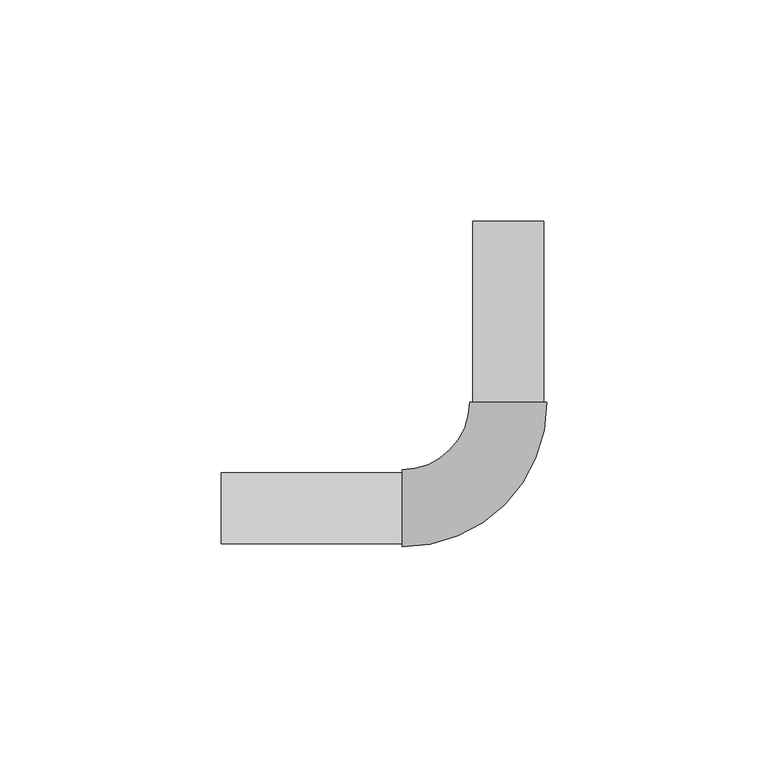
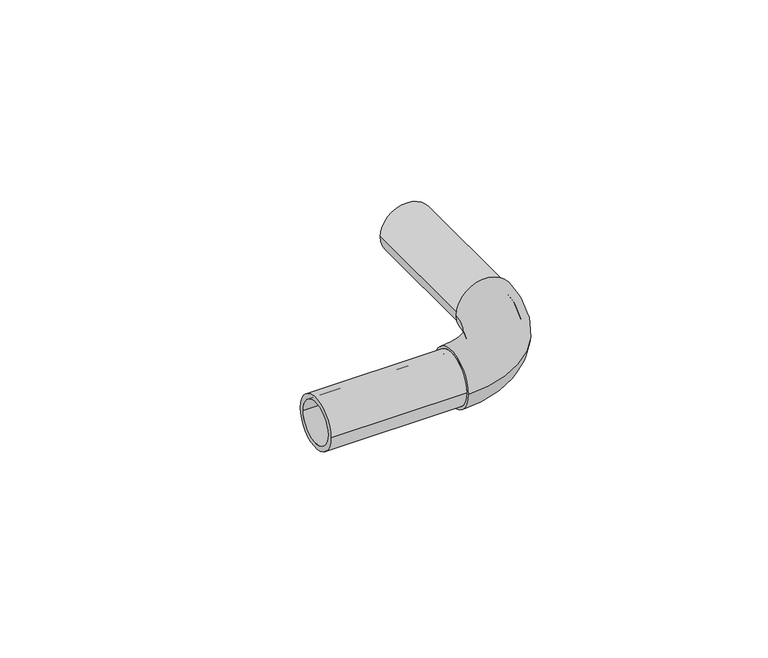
"""IFC4 building model written with IfcOpenShell, lengths in millimetres: pipe fitting geometry, ADSK_ФитингСварнойПЭ_Отвод : Стандартная."""

from ifc_helpers import new_model, si_unit, point, frame, origin, place, context, project, spatial, polyline, circle_curve, ellipse_curve, trimmed, source, transform, mapped, element, save
from ifc_brep_helpers import plane_surface, cylinder_surface, revolved_surface, advanced_brep


def pipe_fitting_2bcd2a3f(model_context):
    return source(origin(), model_context, "Body", "AdvancedBrep", [
        advanced_brep(
        [(-24.0, -8.75, 0.0), (-24.0, 8.75, 0.0), (-24.0, -8.0, 0.0), (-24.0, 8.0, 0.0), (8.75, 24.0, 0.0), (-8.75, 24.0, 0.0), (-8.0, 24.0, 0.0), (8.0, 24.0, 0.0), (-65.0, 8.0, 0.0), (-65.0, -8.0, 0.0), (-65.0, 6.5, 0.0), (-65.0, -6.5, 0.0), (-24.0, 6.5, 0.0), (-24.0, 0.0, 6.5), (-24.0, -6.5, 0.0), (-24.0, 0.0, -6.5), (8.0, 65.0, 0.0), (-8.0, 65.0, 0.0), (6.5, 65.0, 0.0), (-6.5, 65.0, 0.0), (6.5, 24.0, 0.0), (0.0, 24.0, 6.5), (-6.5, 24.0, 0.0), (0.0, 24.0, -6.5)],
        [
            (0, 1, circle_curve(frame((-24.0, 0.0, 0.0), z_axis=(-1.0, 0.0, 0.0), x_axis=(0.0, 1.0, 0.0)), 8.75)),
            (1, 0, circle_curve(frame((-24.0, 0.0, 0.0), z_axis=(-1.0, 0.0, 0.0), x_axis=(0.0, 1.0, 0.0)), 8.75)),
            (2, 3, circle_curve(frame((-24.0, 0.0, 0.0), z_axis=(1.0, 0.0, 0.0), x_axis=(0.0, -1.0, 0.0)), 8.0)),
            (3, 2, circle_curve(frame((-24.0, 0.0, 0.0), z_axis=(1.0, 0.0, 0.0), x_axis=(0.0, -1.0, 0.0)), 8.0)),
            (4, 5, circle_curve(frame((0.0, 24.0, 0.0), z_axis=(0.0, 1.0, 0.0), x_axis=(-1.0, 0.0, 0.0)), 8.75)),
            (5, 4, circle_curve(frame((0.0, 24.0, 0.0), z_axis=(0.0, 1.0, 0.0), x_axis=(-1.0, 0.0, 0.0)), 8.75)),
            (6, 7, circle_curve(frame((0.0, 24.0, 0.0), z_axis=(0.0, -1.0, 0.0), x_axis=(-1.0, 0.0, 0.0)), 8.0)),
            (7, 6, circle_curve(frame((0.0, 24.0, 0.0), z_axis=(0.0, -1.0, 0.0), x_axis=(-1.0, 0.0, 0.0)), 8.0)),
            (0, 4, circle_curve(frame((-24.0, 24.0, 0.0), z_axis=(0.0, 0.0, 1.0), x_axis=(0.0, -1.0, 0.0)), 32.75)),
            (5, 1, circle_curve(frame((-24.0, 24.0, 0.0), z_axis=(0.0, 0.0, -1.0), x_axis=(0.0, -1.0, 0.0)), 15.25)),
            (8, 9, circle_curve(frame((-65.0, 0.0, 0.0), z_axis=(-1.0, 0.0, 0.0), x_axis=(0.0, -1.0, 0.0)), 8.0)),
            (9, 8, circle_curve(frame((-65.0, 0.0, 0.0), z_axis=(-1.0, 0.0, 0.0), x_axis=(0.0, -1.0, 0.0)), 8.0)),
            (10, 11, circle_curve(frame((-65.0, 0.0, 0.0), z_axis=(1.0, 0.0, 0.0), x_axis=(0.0, -1.0, 0.0)), 6.5)),
            (11, 10, circle_curve(frame((-65.0, 0.0, 0.0), z_axis=(1.0, 0.0, 0.0), x_axis=(0.0, -1.0, 0.0)), 6.5)),
            (8, 3),
            (2, 9),
            (10, 12),
            (12, 13, circle_curve(frame((-24.0, 0.0, 0.0), z_axis=(1.0, 0.0, 0.0), x_axis=(0.0, -1.0, 0.0)), 6.5)),
            (13, 14, circle_curve(frame((-24.0, 0.0, 0.0), z_axis=(1.0, 0.0, 0.0), x_axis=(0.0, -1.0, 0.0)), 6.5)),
            (14, 11),
            (14, 15, circle_curve(frame((-24.0, 0.0, 0.0), z_axis=(1.0, 0.0, 0.0), x_axis=(0.0, -1.0, 0.0)), 6.5)),
            (15, 12, circle_curve(frame((-24.0, 0.0, 0.0), z_axis=(1.0, 0.0, 0.0), x_axis=(0.0, -1.0, 0.0)), 6.5)),
            (16, 17, circle_curve(frame((0.0, 65.0, 0.0), z_axis=(0.0, 1.0, 0.0), x_axis=(-1.0, 0.0, 0.0)), 8.0)),
            (17, 16, circle_curve(frame((0.0, 65.0, 0.0), z_axis=(0.0, 1.0, 0.0), x_axis=(-1.0, 0.0, 0.0)), 8.0)),
            (18, 19, circle_curve(frame((0.0, 65.0, 0.0), z_axis=(0.0, -1.0, 0.0), x_axis=(-1.0, 0.0, 0.0)), 6.5)),
            (19, 18, circle_curve(frame((0.0, 65.0, 0.0), z_axis=(0.0, -1.0, 0.0), x_axis=(-1.0, 0.0, 0.0)), 6.5)),
            (18, 20),
            (20, 21, circle_curve(frame((0.0, 24.0, 0.0), z_axis=(0.0, -1.0, 0.0), x_axis=(-1.0, 0.0, 0.0)), 6.5)),
            (21, 22, circle_curve(frame((0.0, 24.0, 0.0), z_axis=(0.0, -1.0, 0.0), x_axis=(-1.0, 0.0, 0.0)), 6.5)),
            (22, 19),
            (22, 23, circle_curve(frame((0.0, 24.0, 0.0), z_axis=(0.0, -1.0, 0.0), x_axis=(-1.0, 0.0, 0.0)), 6.5)),
            (23, 20, circle_curve(frame((0.0, 24.0, 0.0), z_axis=(0.0, -1.0, 0.0), x_axis=(-1.0, 0.0, 0.0)), 6.5)),
            (16, 7),
            (6, 17),
            (22, 12, circle_curve(frame((-24.0, 24.0, 0.0), z_axis=(0.0, 0.0, -1.0), x_axis=(0.0, -1.0, 0.0)), 17.5)),
            (14, 20, circle_curve(frame((-24.0, 24.0, 0.0), z_axis=(0.0, 0.0, 1.0), x_axis=(0.0, -1.0, 0.0)), 30.5)),
        ],
        [
            plane_surface(frame((-24.0, 0.0, 0.0), z_axis=(-1.0, 0.0, 0.0), x_axis=(0.0, 0.0, 1.0))),
            plane_surface(frame((0.0, 24.0, 0.0), z_axis=(0.0, 1.0, 0.0), x_axis=(0.0, 0.0, 1.0))),
            revolved_surface(trimmed(ellipse_curve(frame((-24.0, 0.0, 0.0), z_axis=(-1.0, 0.0, 0.0), x_axis=(0.0, 1.0, 0.0)), 8.75, 8.75), [point((-24.0, -8.75, 0.0))], [point((-24.0, 8.75, 0.0))], True, "CARTESIAN"), (-24.0, 24.0, 0.0), (0.0, 0.0, 1.0)),
            revolved_surface(trimmed(ellipse_curve(frame((-24.0, 0.0, 0.0), z_axis=(-1.0, 0.0, 0.0), x_axis=(0.0, 1.0, 0.0)), 8.75, 8.75), [point((-24.0, 8.75, 0.0))], [point((-24.0, -8.75, 0.0))], True, "CARTESIAN"), (-24.0, 24.0, 0.0), (0.0, 0.0, 1.0)),
            plane_surface(frame((-65.0, 0.0, 0.0), z_axis=(-1.0, 0.0, 0.0), x_axis=(0.0, 0.0, 1.0))),
            cylinder_surface(frame((-24.0, 0.0, 0.0), z_axis=(1.0, 0.0, 0.0), x_axis=(0.0, -1.0, 0.0)), 8.0),
            revolved_surface(polyline([(-65.0, -6.5, 0.0), (-24.0, -6.5, 0.0)]), (-24.0, 0.0, 0.0), (-1.0, 0.0, 0.0)),
            plane_surface(frame((0.0, 65.0, 0.0), z_axis=(0.0, 1.0, 0.0), x_axis=(0.0, 0.0, 1.0))),
            revolved_surface(polyline([(-6.5, 65.0, 0.0), (-6.5, 24.0, 0.0)]), (0.0, 24.0, 0.0), (0.0, 1.0, 0.0)),
            cylinder_surface(frame((0.0, 24.0, 0.0), z_axis=(0.0, -1.0, 0.0), x_axis=(-1.0, 0.0, 0.0)), 8.0),
            revolved_surface(trimmed(ellipse_curve(frame((-24.0, 0.0, 0.0), z_axis=(1.0, 0.0, 0.0), x_axis=(0.0, 1.0, 0.0)), 6.5, 6.5), [point((-24.0, -6.5, 0.0))], [point((-24.0, 6.5, 0.0))], True, "CARTESIAN"), (-24.0, 24.0, 0.0), (0.0, 0.0, 1.0)),
            revolved_surface(trimmed(ellipse_curve(frame((-24.0, 0.0, 0.0), z_axis=(1.0, 0.0, 0.0), x_axis=(0.0, 1.0, 0.0)), 6.5, 6.5), [point((-24.0, 6.5, 0.0))], [point((-24.0, -6.5, 0.0))], True, "CARTESIAN"), (-24.0, 24.0, 0.0), (0.0, 0.0, 1.0)),
        ],
        [
            (0, [[1, 2], [3, 4]]),
            (1, [[5, 6], [7, 8]]),
            (2, [[-1, 9, -6, 10]]),
            (3, [[-2, -10, -5, -9]]),
            (4, [[11, 12], [13, 14]]),
            (5, [[-11, 15, -3, 16]]),
            (5, [[-12, -16, -4, -15]]),
            (6, [[-13, 17, 18, 19, 20]]),
            (6, [[-14, -20, 21, 22, -17]]),
            (7, [[23, 24], [25, 26]]),
            (8, [[-25, 27, 28, 29, 30]]),
            (8, [[-26, -30, 31, 32, -27]]),
            (9, [[-23, 33, -7, 34]]),
            (9, [[-24, -34, -8, -33]]),
            (10, [[35, -22, -21, 36, -32, -31]]),
            (11, [[-35, -29, -28, -36, -19, -18]]),
        ],
    ),
    ])


if __name__ == "__main__":
    model = new_model("IFC4")
    model_context = context("Model", 3, world=origin())
    ifc_project = project(units=[si_unit("LENGTHUNIT", "METRE", prefix="MILLI")], contexts=[model_context])
    site = spatial("IfcSite", under=ifc_project)
    building = spatial("IfcBuilding", under=site)
    placement = place(None, origin())
    pipe_fitting_shape = pipe_fitting_2bcd2a3f(model_context)
    element("IfcPipeFitting", 1, ObjectType="ADSK_ФитингСварнойПЭ_Отвод : Стандартная", at=placement, inside=building, context=model_context, shape_type="MappedRepresentation", body=[
        mapped(pipe_fitting_shape, transform((0.0, 0.0, 0.0), x_axis=(1.0, 0.0, 0.0), y_axis=(0.0, 1.0, 0.0), z_axis=(0.0, 0.0, 1.0))),
    ])
    save(model, "model.ifc")
